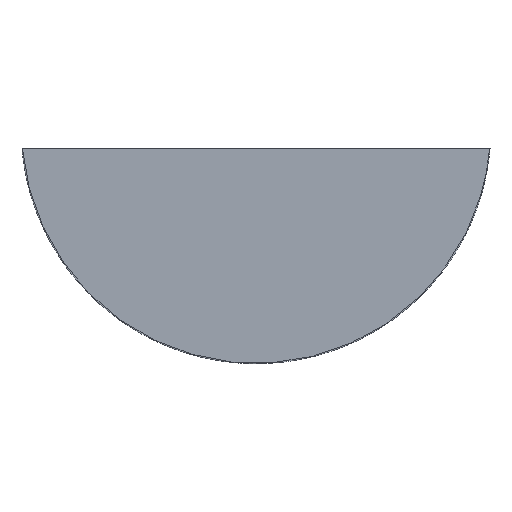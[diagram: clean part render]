
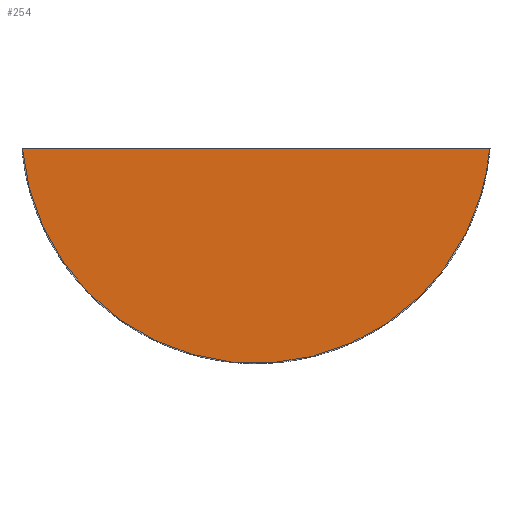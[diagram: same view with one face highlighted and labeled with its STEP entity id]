
A CAD part, top view. The second image highlights one B-rep face of the part: STEP entity #254.
In plain terms, the highlighted planar face has unit normal (0, 0, 1).
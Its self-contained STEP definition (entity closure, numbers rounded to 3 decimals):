
#27=LINE('',#421,#32);
#32=VECTOR('',#301,1000.);
#58=B_SPLINE_CURVE_WITH_KNOTS('',3,(#715,#716,#717,#718,#719,#720,#721,
#722,#723,#724,#725,#726,#727,#728,#729,#730,#731,#732,#733,#734,#735,#736,
#737,#738,#739,#740,#741,#742,#743,#744,#745),.UNSPECIFIED.,.F.,.F.,(4,
1,1,1,1,1,1,1,1,1,1,1,1,1,1,1,1,1,1,1,1,1,1,1,1,1,1,1,4),(0.,0.009,
0.018,0.036,0.045,0.054,
0.072,0.081,0.09,0.099,
0.108,0.117,0.126,0.135,
0.144,0.153,0.162,0.171,
0.18,0.189,0.197,0.206,
0.215,0.233,0.242,0.251,
0.269,0.278,0.287),.UNSPECIFIED.);
#121=ORIENTED_EDGE('',*,*,#158,.F.);
#122=ORIENTED_EDGE('',*,*,#175,.T.);
#158=EDGE_CURVE('',#197,#198,#27,.T.);
#175=EDGE_CURVE('',#197,#198,#58,.T.);
#197=VERTEX_POINT('',#420);
#198=VERTEX_POINT('',#422);
#221=EDGE_LOOP('',(#121,#122));
#236=FACE_BOUND('',#221,.T.);
#243=PLANE('',#288);
#254=ADVANCED_FACE('',(#236),#243,.T.);
#288=AXIS2_PLACEMENT_3D('',#714,#329,#330);
#301=DIRECTION('',(1.,0.,0.));
#329=DIRECTION('',(0.,0.,1.));
#330=DIRECTION('',(1.,0.,0.));
#420=CARTESIAN_POINT('',(-95.612,-8.,2.245));
#421=CARTESIAN_POINT('',(0.,-8.,2.245));
#422=CARTESIAN_POINT('',(95.612,-8.,2.245));
#714=CARTESIAN_POINT('',(0.,-52.182,2.245));
#715=CARTESIAN_POINT('',(-95.612,-8.,2.245));
#716=CARTESIAN_POINT('',(-95.362,-10.989,2.245));
#717=CARTESIAN_POINT('',(-94.585,-16.922,2.245));
#718=CARTESIAN_POINT('',(-91.913,-28.635,2.245));
#719=CARTESIAN_POINT('',(-87.71,-39.673,2.245));
#720=CARTESIAN_POINT('',(-81.973,-50.13,2.245));
#721=CARTESIAN_POINT('',(-75.247,-60.044,2.245));
#722=CARTESIAN_POINT('',(-67.347,-68.791,2.245));
#723=CARTESIAN_POINT('',(-58.142,-76.499,2.245));
#724=CARTESIAN_POINT('',(-50.795,-81.558,2.245));
#725=CARTESIAN_POINT('',(-43.059,-85.893,2.245));
#726=CARTESIAN_POINT('',(-34.923,-89.514,2.245));
#727=CARTESIAN_POINT('',(-26.382,-92.393,2.245));
#728=CARTESIAN_POINT('',(-17.738,-94.43,2.245));
#729=CARTESIAN_POINT('',(-8.956,-95.665,2.245));
#730=CARTESIAN_POINT('',(0.,-96.086,2.245));
#731=CARTESIAN_POINT('',(8.956,-95.665,2.245));
#732=CARTESIAN_POINT('',(17.738,-94.43,2.245));
#733=CARTESIAN_POINT('',(26.382,-92.393,2.245));
#734=CARTESIAN_POINT('',(34.923,-89.514,2.245));
#735=CARTESIAN_POINT('',(43.059,-85.893,2.245));
#736=CARTESIAN_POINT('',(50.795,-81.558,2.245));
#737=CARTESIAN_POINT('',(58.142,-76.499,2.245));
#738=CARTESIAN_POINT('',(67.347,-68.791,2.245));
#739=CARTESIAN_POINT('',(75.247,-60.044,2.245));
#740=CARTESIAN_POINT('',(81.973,-50.13,2.245));
#741=CARTESIAN_POINT('',(87.71,-39.673,2.245));
#742=CARTESIAN_POINT('',(91.913,-28.635,2.245));
#743=CARTESIAN_POINT('',(94.585,-16.922,2.245));
#744=CARTESIAN_POINT('',(95.362,-10.989,2.245));
#745=CARTESIAN_POINT('',(95.612,-8.,2.245));
